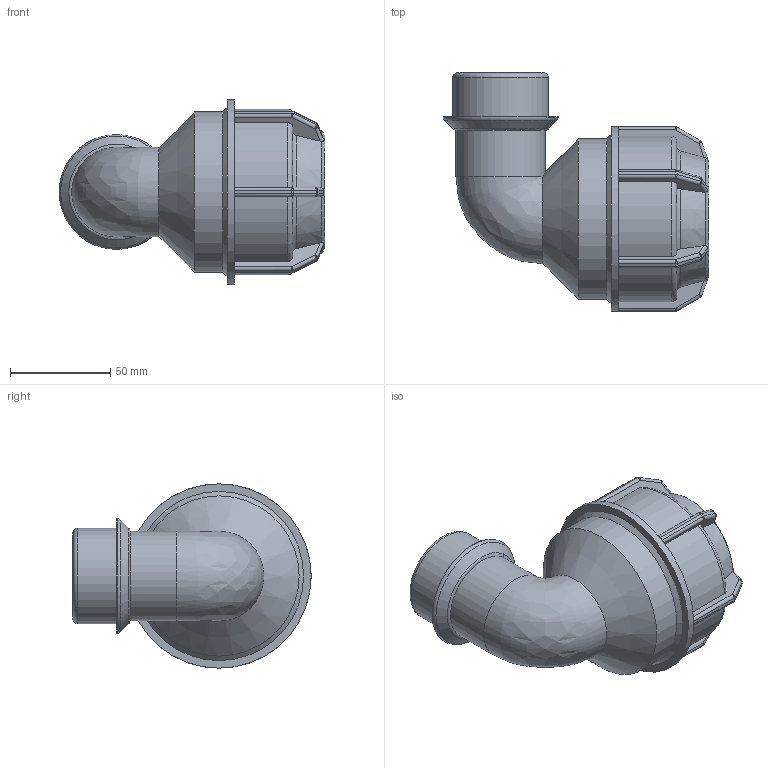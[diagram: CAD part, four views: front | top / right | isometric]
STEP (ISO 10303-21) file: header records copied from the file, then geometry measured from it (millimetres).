
FILE_DESCRIPTION(/* description */ ('PLASSON L.14 90° ELBOW MALE ADAPTOR (SILVER) 50-1.1/2"'),/* implementation_level */ '2;1');
FILE_NAME(/* name */ 'C:\Dropbox\KIMPROJECTS-Inventor\99-16-3568-Processing\Silver+MF ISRAEL\148500\148500050015.ipt.stp',/* time_stamp */ '2018-04-09T13:05:53+03:00',/* author */ ('KIM'),/* organization */ (''),/* preprocessor_version */ 'ST-DEVELOPER v15.6',/* originating_system */ 'Autodesk Inventor 2015',/* authorisation */ '');
FILE_SCHEMA (('AUTOMOTIVE_DESIGN { 1 0 10303 214 3 1 1 }'));
Length unit declared in the file: millimetre
Products named in the file (1): 148500050015
Bounding box: 132.68 x 119 x 92 mm (x, y, z)
Volume: 269287.6 mm3; surface area: 66489.3 mm2
Topology: 1 solids, 1 shells, 213 faces, 505 edges, 289 vertices
Faces by surface type: plane 97, cylinder 63, sphere 24, torus 18, cone 10, bspline 1
Full cylindrical faces by diameter (mm): 38.242 x2, 44.696 x1, 47.803 x1, 50 x2, 57.364 x1, 80 x1, 92 x1
Entity records: 6156 total; most frequent: CARTESIAN_POINT 1579, DIRECTION 964, ORIENTED_EDGE 926, EDGE_CURVE 463, AXIS2_PLACEMENT_3D 392, VERTEX_POINT 276, EDGE_LOOP 237, FACE_OUTER_BOUND 212
